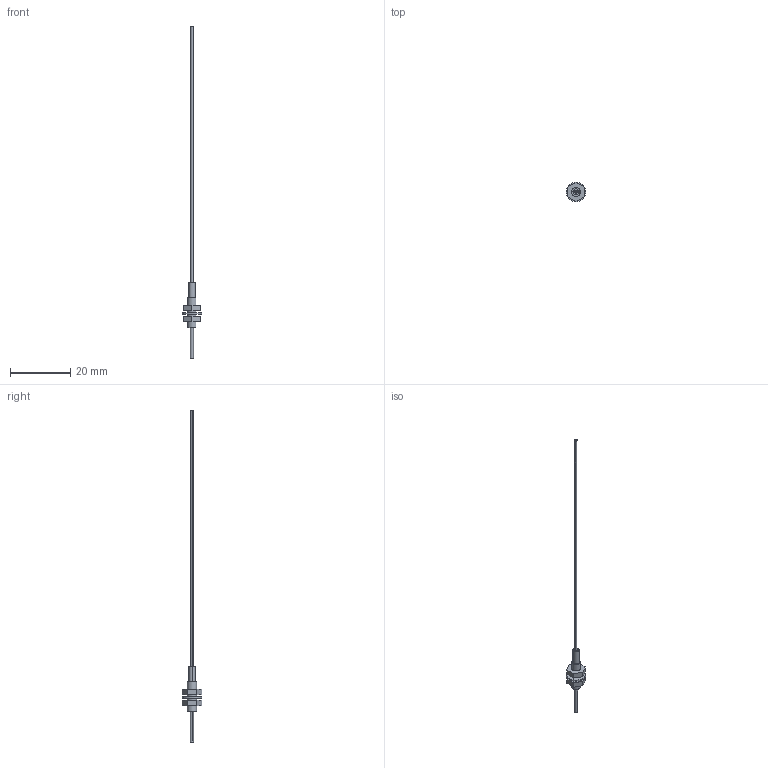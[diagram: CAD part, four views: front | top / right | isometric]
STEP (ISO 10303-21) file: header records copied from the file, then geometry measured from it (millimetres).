
FILE_DESCRIPTION (( 'STEP AP203' ), '1' );
FILE_NAME ('FT-NFM2S.STEP', '2005-09-08T02:16:03', ( '' ), ( '' ), 'SwSTEP 2.0', 'SolidWorks 2004073', '' );
FILE_SCHEMA (( 'CONFIG_CONTROL_DESIGN' ));
Length unit declared in the file: millimetre
Products named in the file (1): FT-NFM2S
Bounding box: 6.5 x 6.5 x 110 mm (x, y, z)
Volume: 224.2 mm3; surface area: 650.5 mm2
Topology: 4 solids, 4 shells, 42 faces, 90 edges, 60 vertices
Faces by surface type: plane 25, cylinder 17
Entity records: 1231 total; most frequent: DIRECTION 210, CARTESIAN_POINT 193, ORIENTED_EDGE 180, EDGE_CURVE 90, AXIS2_PLACEMENT_3D 77, VERTEX_POINT 60, LINE 56, VECTOR 56
